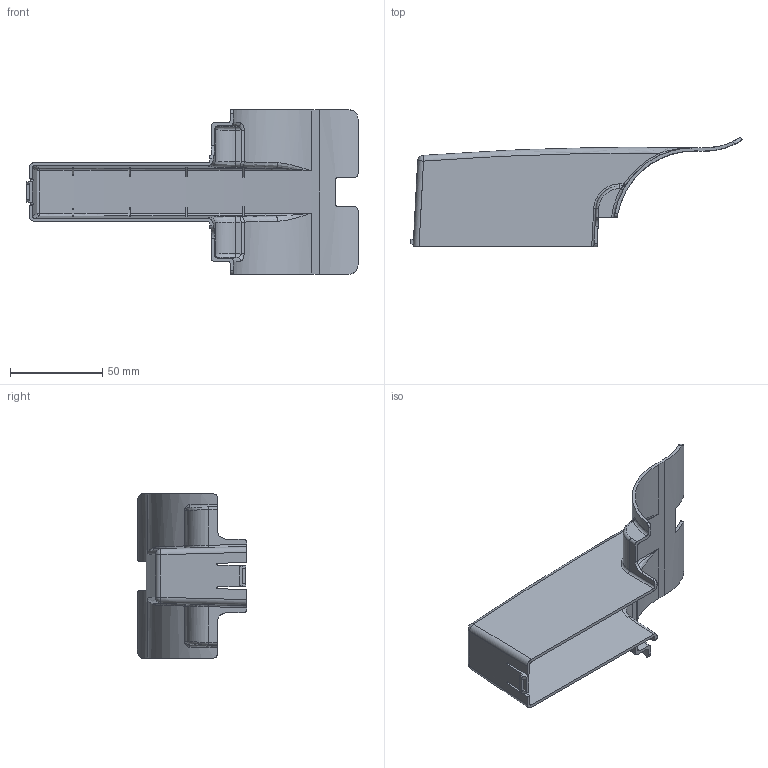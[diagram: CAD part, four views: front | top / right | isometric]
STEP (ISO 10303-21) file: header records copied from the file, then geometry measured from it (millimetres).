
FILE_DESCRIPTION (( 'STEP AP214' ), '1' );
FILE_NAME ('1062080-01.STEP', '2022-04-12T17:40:28', ( '' ), ( '' ), 'SwSTEP 2.0', 'SolidWorks 2021', '' );
FILE_SCHEMA (( 'AUTOMOTIVE_DESIGN' ));
Length unit declared in the file: millimetre
Products named in the file (1): 1062080-01
Bounding box: 180.16 x 59.53 x 89 mm (x, y, z)
Volume: 39264.3 mm3; surface area: 47458.7 mm2
Topology: 1 solids, 1 shells, 181 faces, 458 edges, 279 vertices
Faces by surface type: cylinder 69, plane 68, bspline 24, torus 16, sphere 4
Entity records: 8284 total; most frequent: CARTESIAN_POINT 4449, ORIENTED_EDGE 916, DIRECTION 609, EDGE_CURVE 458, VERTEX_POINT 279, AXIS2_PLACEMENT_3D 217, B_SPLINE_CURVE_WITH_KNOTS 209, ADVANCED_FACE 181
